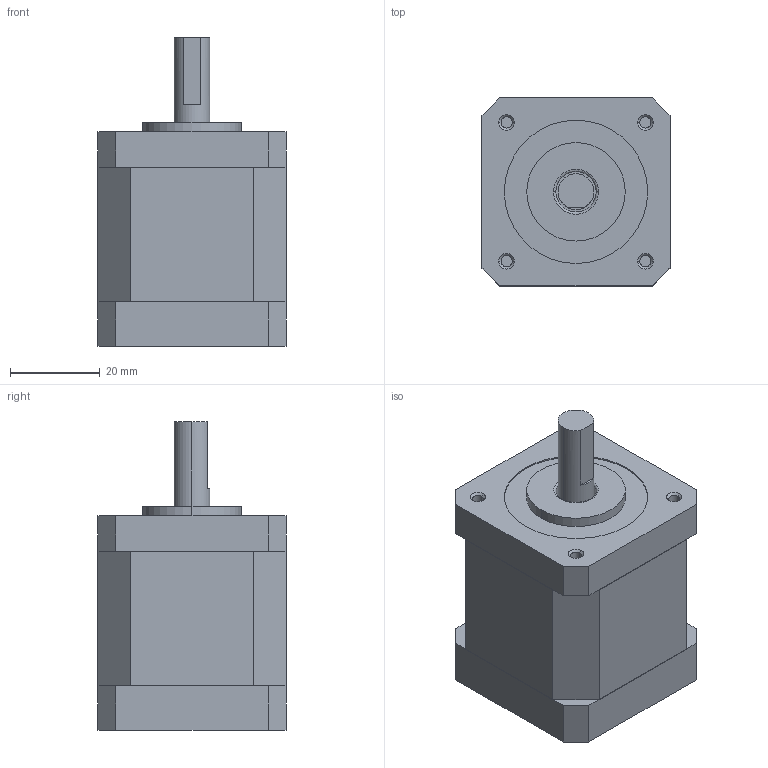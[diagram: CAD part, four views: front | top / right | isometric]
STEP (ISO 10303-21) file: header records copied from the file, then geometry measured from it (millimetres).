
FILE_DESCRIPTION (( 'STEP AP203' ), '1' );
FILE_NAME ('42CM06-0-I8.STEP', '2021-04-25T06:06:04', ( 'Owner' ), ( 'Organization' ), 'SwSTEP 2.0', 'SolidWorks 2018', '' );
FILE_SCHEMA (( 'CONFIG_CONTROL_DESIGN' ));
Length unit declared in the file: millimetre
Products named in the file (1): 42CM06-0-I8
Bounding box: 42.2 x 42.2 x 69 mm (x, y, z)
Volume: 82576.6 mm3; surface area: 12473.2 mm2
Topology: 1 solids, 1 shells, 204 faces, 510 edges, 326 vertices
Faces by surface type: plane 126, cylinder 56, bspline 12, cone 10
Entity records: 6531 total; most frequent: CARTESIAN_POINT 1625, ORIENTED_EDGE 1020, DIRECTION 984, EDGE_CURVE 510, AXIS2_PLACEMENT_3D 333, VERTEX_POINT 326, VECTOR 318, LINE 318
